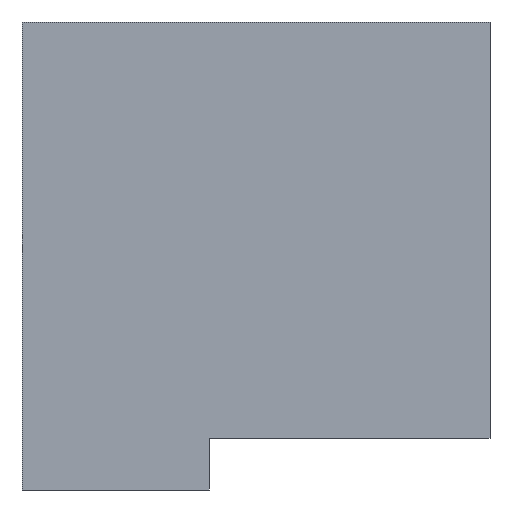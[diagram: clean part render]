
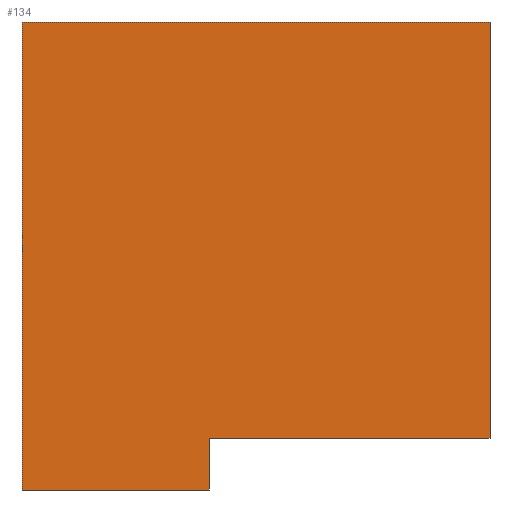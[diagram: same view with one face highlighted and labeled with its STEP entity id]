
A CAD part, left-side view. The second image highlights one B-rep face of the part: STEP entity #134.
In plain terms, the highlighted planar face has unit normal (-1, 0, 0).
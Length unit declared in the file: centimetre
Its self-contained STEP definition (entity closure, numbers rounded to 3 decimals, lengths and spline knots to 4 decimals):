
#4 = VERTEX_POINT ( 'NONE', #275 ) ;
#7 = VERTEX_POINT ( 'NONE', #342 ) ;
#10 = VERTEX_POINT ( 'NONE', #350 ) ;
#17 = CARTESIAN_POINT ( 'NONE',  ( 0., 1000., 1000. ) ) ;
#19 = DIRECTION ( 'NONE',  ( 0., 0., -1. ) ) ;
#20 = EDGE_CURVE ( 'NONE', #219, #10, #377, .T. ) ;
#24 = DIRECTION ( 'NONE',  ( 0., 0., -1. ) ) ;
#29 = ORIENTED_EDGE ( 'NONE', *, *, #137, .F. ) ;
#62 = VECTOR ( 'NONE', #360, 100. ) ;
#82 = LINE ( 'NONE', #296, #302 ) ;
#118 = LINE ( 'NONE', #265, #62 ) ;
#134 = ADVANCED_FACE ( 'NONE', ( #256 ), #139, .F. ) ;
#136 = DIRECTION ( 'NONE',  ( 0., 0., -1. ) ) ;
#137 = EDGE_CURVE ( 'NONE', #333, #10, #166, .T. ) ;
#138 = VECTOR ( 'NONE', #284, 100. ) ;
#139 = PLANE ( 'NONE',  #149 ) ;
#149 = AXIS2_PLACEMENT_3D ( 'NONE', #171, #230, #231 ) ;
#154 = ORIENTED_EDGE ( 'NONE', *, *, #20, .T. ) ;
#166 = LINE ( 'NONE', #229, #301 ) ;
#171 = CARTESIAN_POINT ( 'NONE',  ( 0., 1000., 1000. ) ) ;
#193 = CARTESIAN_POINT ( 'NONE',  ( 0., 600.4209, 110.8604 ) ) ;
#213 = ORIENTED_EDGE ( 'NONE', *, *, #382, .F. ) ;
#214 = ORIENTED_EDGE ( 'NONE', *, *, #225, .T. ) ;
#219 = VERTEX_POINT ( 'NONE', #390 ) ;
#225 = EDGE_CURVE ( 'NONE', #4, #7, #289, .T. ) ;
#229 = CARTESIAN_POINT ( 'NONE',  ( 0., 0., 1000. ) ) ;
#230 = DIRECTION ( 'NONE',  ( 1., 0., 0. ) ) ;
#231 = DIRECTION ( 'NONE',  ( 0., 0., -1. ) ) ;
#256 = FACE_OUTER_BOUND ( 'NONE', #345, .T. ) ;
#264 = DIRECTION ( 'NONE',  ( 0., -1., 0. ) ) ;
#265 = CARTESIAN_POINT ( 'NONE',  ( 0., 1000., 0. ) ) ;
#275 = CARTESIAN_POINT ( 'NONE',  ( 0., 1000., 1000. ) ) ;
#278 = ORIENTED_EDGE ( 'NONE', *, *, #389, .T. ) ;
#281 = ORIENTED_EDGE ( 'NONE', *, *, #326, .F. ) ;
#284 = DIRECTION ( 'NONE',  ( 0., -1., 0. ) ) ;
#289 = LINE ( 'NONE', #17, #387 ) ;
#296 = CARTESIAN_POINT ( 'NONE',  ( 0., 1000., 1000. ) ) ;
#297 = CARTESIAN_POINT ( 'NONE',  ( 0., 0., 1000. ) ) ;
#299 = CARTESIAN_POINT ( 'NONE',  ( 0., 600.4209, 110.8604 ) ) ;
#301 = VECTOR ( 'NONE', #19, 100. ) ;
#302 = VECTOR ( 'NONE', #264, 100. ) ;
#305 = VERTEX_POINT ( 'NONE', #325 ) ;
#325 = CARTESIAN_POINT ( 'NONE',  ( 0., 600.4209, 0. ) ) ;
#326 = EDGE_CURVE ( 'NONE', #4, #333, #82, .T. ) ;
#333 = VERTEX_POINT ( 'NONE', #297 ) ;
#342 = CARTESIAN_POINT ( 'NONE',  ( 0., 1000., 0. ) ) ;
#345 = EDGE_LOOP ( 'NONE', ( #213, #154, #29, #281, #214, #278 ) ) ;
#350 = CARTESIAN_POINT ( 'NONE',  ( 0., 0., 110.8604 ) ) ;
#359 = VECTOR ( 'NONE', #24, 100. ) ;
#360 = DIRECTION ( 'NONE',  ( 0., -1., 0. ) ) ;
#377 = LINE ( 'NONE', #193, #138 ) ;
#382 = EDGE_CURVE ( 'NONE', #219, #305, #402, .T. ) ;
#387 = VECTOR ( 'NONE', #136, 100. ) ;
#389 = EDGE_CURVE ( 'NONE', #7, #305, #118, .T. ) ;
#390 = CARTESIAN_POINT ( 'NONE',  ( 0., 600.4209, 110.8604 ) ) ;
#402 = LINE ( 'NONE', #299, #359 ) ;
